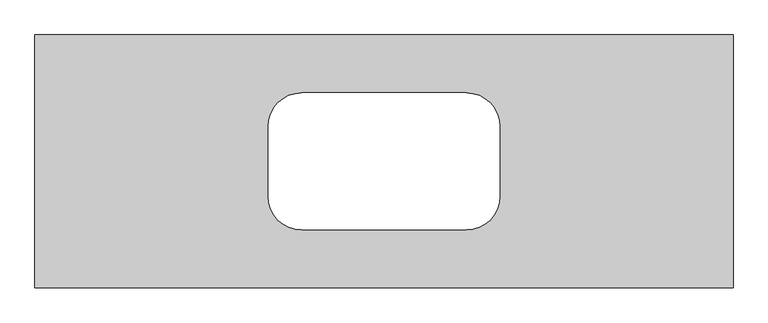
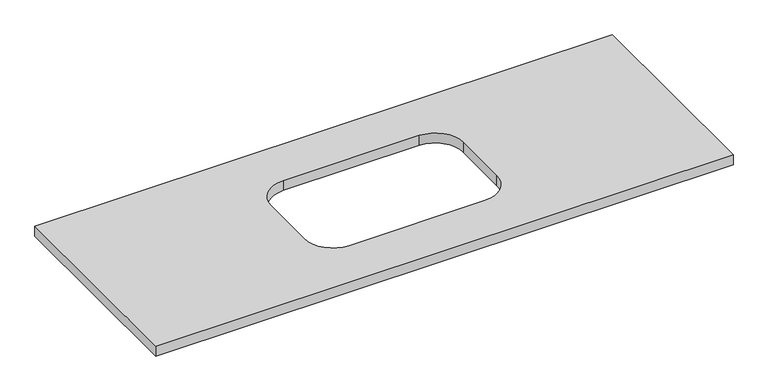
"""IFC4 building model written with IfcOpenShell, lengths in millimetres: flow terminal geometry, Bancada Linear com Cuba : Profundidade 60cm."""

from ifc_helpers import new_model, si_unit, point, frame, frame_2d, origin, place, context, project, spatial, polyline, circle_curve, trimmed, segment, composite_curve, outline, extrude, source, transform, mapped, element, save


def flow_terminal_f5ff5782(model_context):
    return source(origin(), model_context, "Body", "SweptSolid", [
        extrude(outline(polyline([(828.0408956, 300.0), (828.0408956, -300.0), (-828.0408956, -300.0), (-828.0408956, 300.0), (828.0408956, 300.0)]), holes=[composite_curve([segment(polyline([(-275.0, 82.5), (-275.0, -82.5)]), True, "CONTINUOUS"), segment(trimmed(circle_curve(frame_2d((-195.0, -82.5)), 80.0), [point((-275.0, -82.5))], [point((-195.0, -162.5))], True, "CARTESIAN"), True, "CONTINUOUS"), segment(polyline([(-195.0, -162.5), (195.0, -162.5)]), True, "CONTINUOUS"), segment(trimmed(circle_curve(frame_2d((195.0, -82.5)), 80.0), [point((195.0, -162.5))], [point((275.0, -82.5))], True, "CARTESIAN"), True, "CONTINUOUS"), segment(polyline([(275.0, -82.5), (275.0, 82.5)]), True, "CONTINUOUS"), segment(trimmed(circle_curve(frame_2d((195.0, 82.5)), 80.0), [point((275.0, 82.5))], [point((195.0, 162.5))], True, "CARTESIAN"), True, "CONTINUOUS"), segment(polyline([(195.0, 162.5), (-195.0, 162.5)]), True, "CONTINUOUS"), segment(trimmed(circle_curve(frame_2d((-195.0, 82.5)), 80.0), [point((-195.0, 162.5))], [point((-275.0, 82.5))], True, "CARTESIAN"), True, "CONTINUOUS")], self_intersect=False)]), frame((0.0, 0.0, 770.0), z_axis=(0.0, 0.0, 1.0), x_axis=(1.0, 0.0, 0.0)), (0.0, 0.0, 1.0), 30.0),
    ])


if __name__ == "__main__":
    model = new_model("IFC4")
    model_context = context("Model", 3, world=origin())
    ifc_project = project(units=[si_unit("LENGTHUNIT", "METRE", prefix="MILLI")], contexts=[model_context])
    site = spatial("IfcSite", under=ifc_project)
    building = spatial("IfcBuilding", under=site)
    placement = place(None, origin())
    flow_terminal_shape = flow_terminal_f5ff5782(model_context)
    element("IfcFlowTerminal", 1, ObjectType="Bancada Linear com Cuba : Profundidade 60cm", at=placement, inside=building, context=model_context, shape_type="MappedRepresentation", body=[
        mapped(flow_terminal_shape, transform((0.0, 0.0, 0.0), x_axis=(1.0, 0.0, 0.0), y_axis=(0.0, 1.0, 0.0), z_axis=(0.0, 0.0, 1.0))),
    ])
    save(model, "model.ifc")
